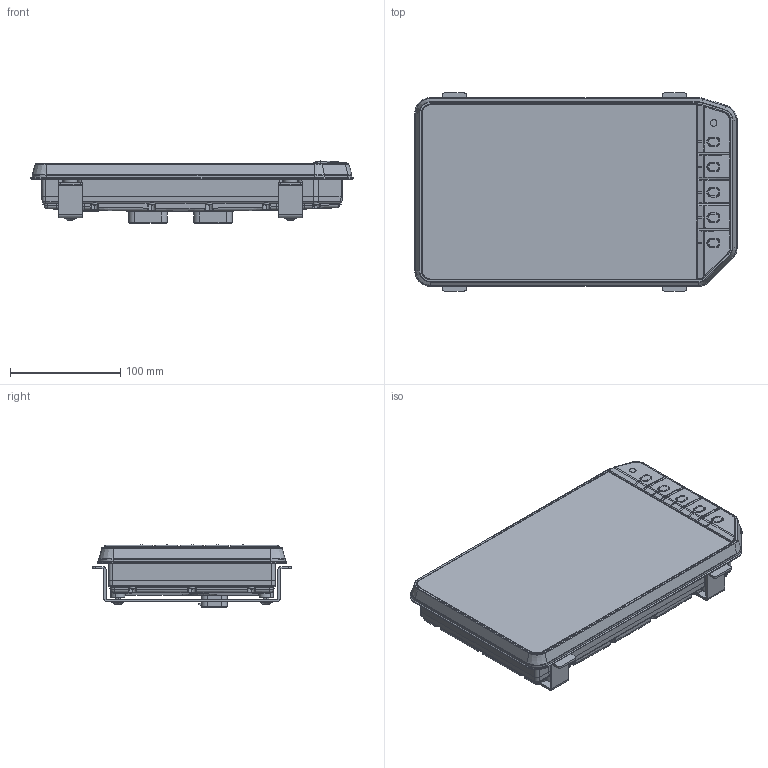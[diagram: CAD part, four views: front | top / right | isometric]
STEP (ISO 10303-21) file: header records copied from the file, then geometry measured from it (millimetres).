
FILE_DESCRIPTION(('STEP AP214'),'2;1');
FILE_NAME('425_1244 Strumento 10,1 pollici vers a pannello-Modello sicuro fase 2.stp','2022-10-17T14:45:46',(''),(''),'2008.1.107','THINKDESIGN','');
FILE_SCHEMA(('AUTOMOTIVE_DESIGN'));
Length unit declared in the file: millimetre
Products named in the file (1): top
Bounding box: 292.78 x 180 x 56.34 mm (x, y, z)
Surface area: 195506.8 mm2 (no closed solid volume)
Topology: 0 solids, 0 shells, 2314 faces, 11937 edges, 11924 vertices
Faces by surface type: bspline 1143, cylinder 706, plane 465
Entity records: 138206 total; most frequent: CARTESIAN_POINT 84860, COMPOSITE_CURVE_SEGMENT 11918, DIRECTION 9362, TRIMMED_CURVE 5852, VECTOR 4686, LINE 4686, B_SPLINE_CURVE_WITH_KNOTS 3243, AXIS2_PLACEMENT_3D 2338
